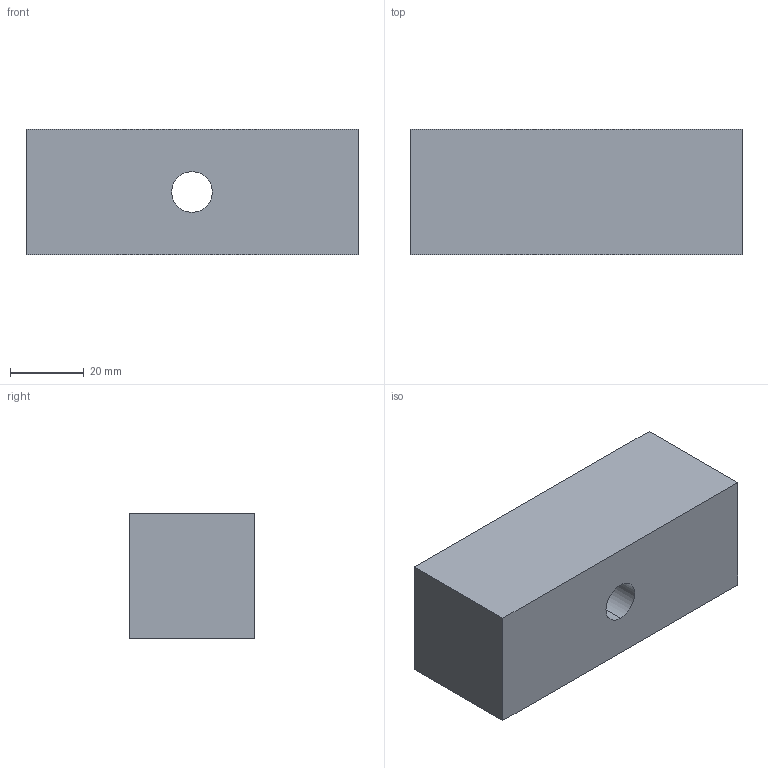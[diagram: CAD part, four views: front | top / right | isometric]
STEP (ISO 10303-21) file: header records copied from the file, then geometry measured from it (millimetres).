
FILE_DESCRIPTION(('CATIA V5 STEP Exchange'),'2;1');
FILE_NAME('C:\Users\Raffaele\Desktop\3D X SITO CF\760\GSB_OILLESS_M317042534090\STEP-2.03\760-3030080.stp','2019-07-04T13:32:12+00:00',('none'),('none'),'CATIA Version 5 Release 20 GA (IN-10)','CATIA V5 STEP AP203','none');
FILE_SCHEMA(('CONFIG_CONTROL_DESIGN'));
Length unit declared in the file: millimetre
Products named in the file (1): 760-3030080
Bounding box: 90 x 34 x 34 mm (x, y, z)
Volume: 98179.4 mm3; surface area: 15876.2 mm2
Topology: 1 solids, 1 shells, 11 faces, 32 edges, 24 vertices
Faces by surface type: plane 7, cylinder 4
Entity records: 464 total; most frequent: CARTESIAN_POINT 124, ORIENTED_EDGE 64, DIRECTION 50, EDGE_CURVE 32, AXIS2_PLACEMENT_3D 24, VERTEX_POINT 24, VECTOR 16, LINE 16
